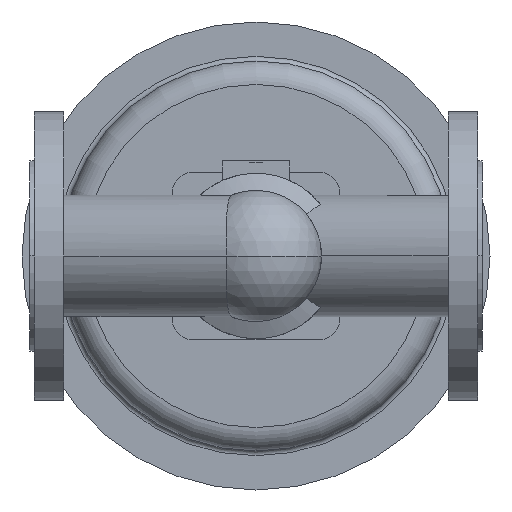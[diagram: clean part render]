
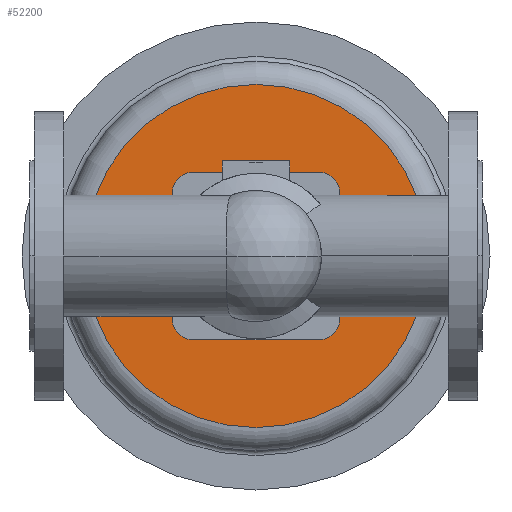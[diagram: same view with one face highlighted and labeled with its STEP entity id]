
A CAD part, front view. The second image highlights one B-rep face of the part: STEP entity #52200.
In plain terms, the highlighted planar face has unit normal (0, -1, 0).
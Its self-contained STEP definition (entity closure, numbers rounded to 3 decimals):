
#51420=CARTESIAN_POINT('',(126.55,617.5,0.));
#51430=VERTEX_POINT('',#51420);
#51510=CARTESIAN_POINT('',(163.45,617.5,0.));
#51520=VERTEX_POINT('',#51510);
#51550=CARTESIAN_POINT('',(145.,617.5,0.));
#51560=DIRECTION('',(0.,1.,0.));
#51570=DIRECTION('',(1.,0.,0.));
#51580=AXIS2_PLACEMENT_3D('',#51550,#51560,#51570);
#51590=CIRCLE('',#51580,18.45);
#51600=EDGE_CURVE('',#51520,#51430,#51590,.T.);
#51650=CARTESIAN_POINT('',(200.,617.5,0.));
#51660=DIRECTION('',(0.,-1.,0.));
#51670=DIRECTION('',(-1.,0.,0.));
#51680=AXIS2_PLACEMENT_3D('',#51650,#51660,#51670);
#51690=PLANE('',#51680);
#51700=EDGE_CURVE('',#51430,#51520,#51590,.T.);
#51710=ORIENTED_EDGE('',*,*,#51700,.T.);
#51720=ORIENTED_EDGE('',*,*,#51600,.T.);
#51730=EDGE_LOOP('',(#51720,#51710));
#51740=FACE_BOUND('',#51730,.T.);
#51750=CARTESIAN_POINT('',(95.,617.5,0.));
#51760=DIRECTION('',(0.,1.,0.));
#51770=DIRECTION('',(1.,0.,0.));
#51780=AXIS2_PLACEMENT_3D('',#51750,#51760,#51770);
#51790=CIRCLE('',#51780,15.);
#51800=CARTESIAN_POINT('',(110.,617.5,0.));
#51810=VERTEX_POINT('',#51800);
#51820=CARTESIAN_POINT('',(80.,617.5,0.));
#51830=VERTEX_POINT('',#51820);
#51840=EDGE_CURVE('',#51810,#51830,#51790,.T.);
#51850=ORIENTED_EDGE('',*,*,#51840,.T.);
#51860=EDGE_CURVE('',#51830,#51810,#51790,.T.);
#51870=ORIENTED_EDGE('',*,*,#51860,.T.);
#51880=EDGE_LOOP('',(#51870,#51850));
#51890=FACE_BOUND('',#51880,.T.);
#51900=CARTESIAN_POINT('',(195.,617.5,0.));
#51910=DIRECTION('',(0.,1.,0.));
#51920=DIRECTION('',(1.,0.,0.));
#51930=AXIS2_PLACEMENT_3D('',#51900,#51910,#51920);
#51940=CIRCLE('',#51930,15.);
#51950=CARTESIAN_POINT('',(180.,617.5,0.));
#51960=VERTEX_POINT('',#51950);
#51970=CARTESIAN_POINT('',(210.,617.5,0.));
#51980=VERTEX_POINT('',#51970);
#51990=EDGE_CURVE('',#51960,#51980,#51940,.T.);
#52000=ORIENTED_EDGE('',*,*,#51990,.T.);
#52010=EDGE_CURVE('',#51980,#51960,#51940,.T.);
#52020=ORIENTED_EDGE('',*,*,#52010,.T.);
#52030=EDGE_LOOP('',(#52020,#52000));
#52040=FACE_BOUND('',#52030,.T.);
#52050=CARTESIAN_POINT('',(145.,617.5,0.));
#52060=DIRECTION('',(0.,1.,0.));
#52070=DIRECTION('',(1.,0.,0.));
#52080=AXIS2_PLACEMENT_3D('',#52050,#52060,#52070);
#52090=CIRCLE('',#52080,110.);
#52100=CARTESIAN_POINT('',(255.,617.5,0.));
#52110=VERTEX_POINT('',#52100);
#52120=CARTESIAN_POINT('',(35.,617.5,0.));
#52130=VERTEX_POINT('',#52120);
#52140=EDGE_CURVE('',#52110,#52130,#52090,.T.);
#52150=ORIENTED_EDGE('',*,*,#52140,.F.);
#52160=EDGE_CURVE('',#52130,#52110,#52090,.T.);
#52170=ORIENTED_EDGE('',*,*,#52160,.F.);
#52180=EDGE_LOOP('',(#52170,#52150));
#52190=FACE_OUTER_BOUND('',#52180,.T.);
#52200=ADVANCED_FACE('',(#51740,#51890,#52040,#52190),#51690,.T.);
